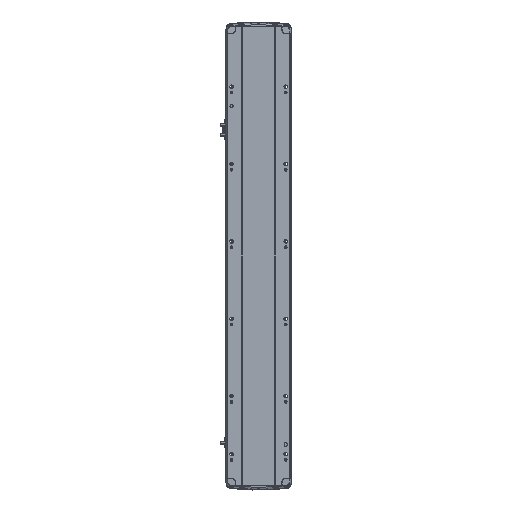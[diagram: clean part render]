
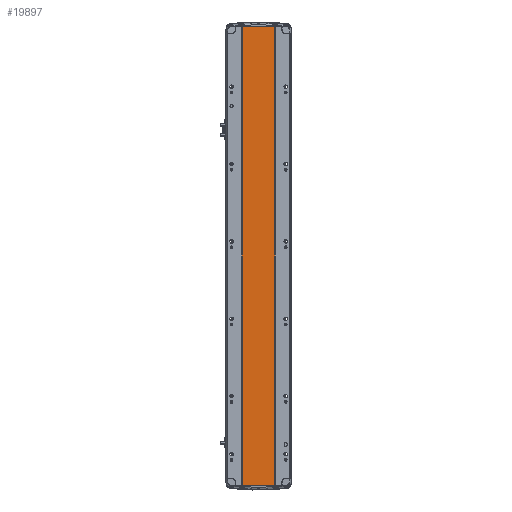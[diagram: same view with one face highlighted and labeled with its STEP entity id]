
A CAD part, front view. The second image highlights one B-rep face of the part: STEP entity #19897.
In plain terms, the highlighted planar face has unit normal (0, -1, 0).
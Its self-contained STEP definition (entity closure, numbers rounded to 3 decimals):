
#1387 = EDGE_CURVE ( 'NONE', #13376, #9037, #27600, .T. ) ;
#1594 = LINE ( 'NONE', #23450, #17669 ) ;
#1653 = PLANE ( 'NONE',  #19617 ) ;
#1843 = VECTOR ( 'NONE', #21711, 1000. ) ;
#6946 = VERTEX_POINT ( 'NONE', #37185 ) ;
#8921 = CARTESIAN_POINT ( 'NONE',  ( 0., 0.999, 0. ) ) ;
#8931 = DIRECTION ( 'NONE',  ( 1., 0., 0. ) ) ;
#9037 = VERTEX_POINT ( 'NONE', #16586 ) ;
#9317 = EDGE_LOOP ( 'NONE', ( #25718, #33763, #19982, #38969 ) ) ;
#9344 = CARTESIAN_POINT ( 'NONE',  ( 41.793, 0.998, 1184.5 ) ) ;
#11346 = DIRECTION ( 'NONE',  ( -1., 0., 0. ) ) ;
#12312 = CARTESIAN_POINT ( 'NONE',  ( 0., 0.999, 1184.5 ) ) ;
#13376 = VERTEX_POINT ( 'NONE', #32023 ) ;
#13437 = VERTEX_POINT ( 'NONE', #9344 ) ;
#14025 = EDGE_CURVE ( 'NONE', #13437, #6946, #1594, .T. ) ;
#14079 = VECTOR ( 'NONE', #38853, 1000. ) ;
#16586 = CARTESIAN_POINT ( 'NONE',  ( -41.791, 1., 0. ) ) ;
#17259 = VECTOR ( 'NONE', #8931, 1000. ) ;
#17669 = VECTOR ( 'NONE', #39463, 1000. ) ;
#18597 = EDGE_CURVE ( 'NONE', #9037, #6946, #40461, .T. ) ;
#18914 = EDGE_CURVE ( 'NONE', #13376, #13437, #39724, .T. ) ;
#19617 = AXIS2_PLACEMENT_3D ( 'NONE', #24387, #27726, #11346 ) ;
#19897 = ADVANCED_FACE ( 'NONE', ( #28216 ), #1653, .F. ) ;
#19982 = ORIENTED_EDGE ( 'NONE', *, *, #18914, .F. ) ;
#21711 = DIRECTION ( 'NONE',  ( 1., 0., 0. ) ) ;
#23450 = CARTESIAN_POINT ( 'NONE',  ( 41.793, 0.998, 1184.5 ) ) ;
#24387 = CARTESIAN_POINT ( 'NONE',  ( 0., 0.999, 1184.5 ) ) ;
#25505 = CARTESIAN_POINT ( 'NONE',  ( -41.791, 1., 1184.5 ) ) ;
#25718 = ORIENTED_EDGE ( 'NONE', *, *, #18597, .T. ) ;
#27600 = LINE ( 'NONE', #25505, #14079 ) ;
#27726 = DIRECTION ( 'NONE',  ( 0., 1., 0. ) ) ;
#28216 = FACE_OUTER_BOUND ( 'NONE', #9317, .T. ) ;
#32023 = CARTESIAN_POINT ( 'NONE',  ( -41.791, 1., 1184.5 ) ) ;
#33763 = ORIENTED_EDGE ( 'NONE', *, *, #14025, .F. ) ;
#37185 = CARTESIAN_POINT ( 'NONE',  ( 41.793, 0.998, 0. ) ) ;
#38853 = DIRECTION ( 'NONE',  ( 0., 0., -1. ) ) ;
#38969 = ORIENTED_EDGE ( 'NONE', *, *, #1387, .T. ) ;
#39463 = DIRECTION ( 'NONE',  ( 0., 0., -1. ) ) ;
#39724 = LINE ( 'NONE', #12312, #17259 ) ;
#40461 = LINE ( 'NONE', #8921, #1843 ) ;
